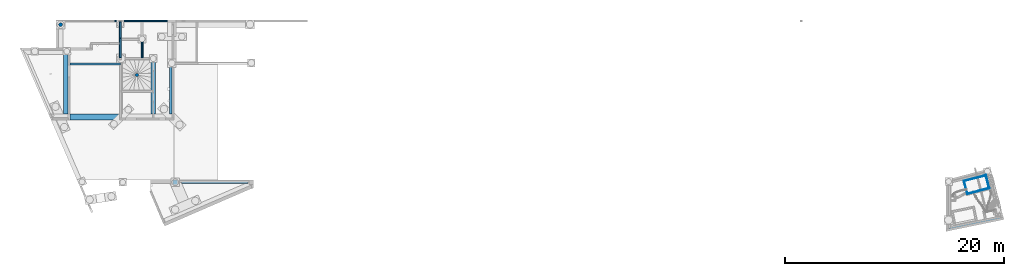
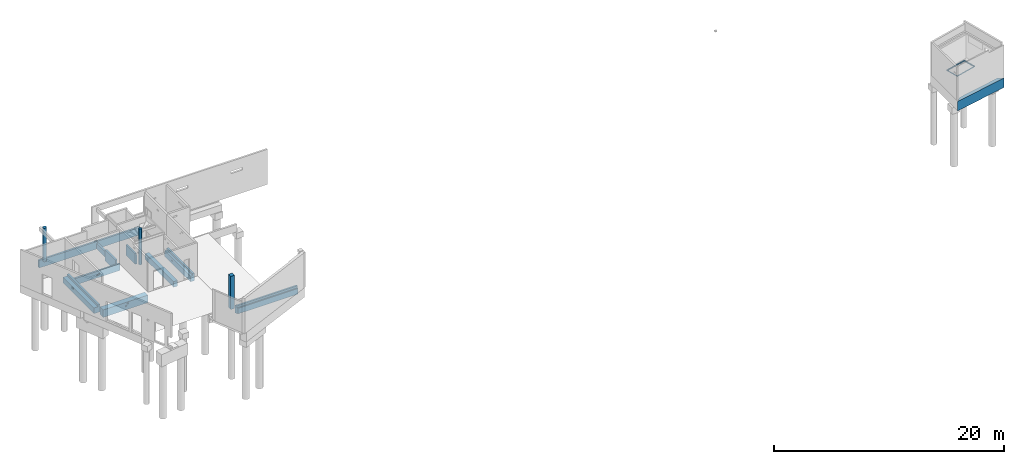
# One storey, part 1 of 29: 16 beams, 3 columns.
"""IFC2X3 building model written with IfcOpenShell, lengths in centimetres."""

from ifc_helpers import new_model, entity, si_unit, converted_unit, derived_unit, direction, frame, frame_2d, origin, origin_2d_with_axis, place, context, subcontext, project, spatial, polyline, circle_curve, parameter, trimmed, segment, composite_curve, rectangle, circle, outline, extrude, boolean, clip, halfspace, source, transform, mapped, material, material_list, type_object, type_shapes, element, save


model = new_model("IFC2X3")

# Units and contexts
model_context = context("Model", 3, precision=0.001, world=origin(), true_north=direction((6.12303176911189e-17, 1.0)))
body_context = subcontext(model_context, "Body", "Model", "MODEL_VIEW")
ifc_project = project(units=[si_unit("LENGTHUNIT", "METRE", prefix="CENTI"), si_unit("AREAUNIT", "SQUARE_METRE"), si_unit("VOLUMEUNIT", "CUBIC_METRE"), converted_unit("PLANEANGLEUNIT", "DEGREE", entity("IfcRatioMeasure", 0.0174532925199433), si_unit("PLANEANGLEUNIT", "RADIAN"), dimensions=[0, 0, 0, 0, 0, 0, 0]), si_unit("MASSUNIT", "GRAM", prefix="KILO"), derived_unit("MASSDENSITYUNIT", [(si_unit("MASSUNIT", "GRAM", prefix="KILO"), 1), (si_unit("LENGTHUNIT", "METRE"), -3)]), si_unit("TIMEUNIT", "SECOND"), si_unit("FREQUENCYUNIT", "HERTZ"), si_unit("THERMODYNAMICTEMPERATUREUNIT", "DEGREE_CELSIUS"), derived_unit("THERMALTRANSMITTANCEUNIT", [(si_unit("MASSUNIT", "GRAM", prefix="KILO"), 1), (si_unit("THERMODYNAMICTEMPERATUREUNIT", "KELVIN"), -1), (si_unit("TIMEUNIT", "SECOND"), -3)]), derived_unit("VOLUMETRICFLOWRATEUNIT", [(si_unit("LENGTHUNIT", "METRE"), 3), (si_unit("TIMEUNIT", "SECOND"), -1)]), si_unit("ELECTRICCURRENTUNIT", "AMPERE"), si_unit("ELECTRICVOLTAGEUNIT", "VOLT"), si_unit("POWERUNIT", "WATT"), si_unit("FORCEUNIT", "NEWTON"), si_unit("ILLUMINANCEUNIT", "LUX"), si_unit("LUMINOUSFLUXUNIT", "LUMEN"), si_unit("LUMINOUSINTENSITYUNIT", "CANDELA"), derived_unit("USERDEFINED", [(si_unit("MASSUNIT", "GRAM", prefix="KILO"), -1), (si_unit("LENGTHUNIT", "METRE"), -2), (si_unit("TIMEUNIT", "SECOND"), 3), (si_unit("LUMINOUSFLUXUNIT", "LUMEN"), 1)]), derived_unit("LINEARVELOCITYUNIT", [(si_unit("LENGTHUNIT", "METRE"), 1), (si_unit("TIMEUNIT", "SECOND"), -1)]), si_unit("PRESSUREUNIT", "PASCAL"), derived_unit("USERDEFINED", [(si_unit("LENGTHUNIT", "METRE"), -2), (si_unit("MASSUNIT", "GRAM", prefix="KILO"), 1), (si_unit("TIMEUNIT", "SECOND"), -2)])], contexts=[model_context])

# Site, building, storey
site_placement = place(None, origin())
site = spatial("IfcSite", under=ifc_project, at=site_placement, Name="Default", CompositionType="ELEMENT")
building_placement = place(site_placement, origin())
building = spatial("IfcBuilding", under=site, at=building_placement, Name="CAGE 03", CompositionType="ELEMENT")
storey_placement = place(building_placement, frame((0.0, 0.0, -34.0)))
storey = spatial("IfcBuildingStorey", under=building, at=storey_placement, Name="+3.66", CompositionType="ELEMENT", Elevation=-34.0000000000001)

# Columns
ifc_material_1 = material(Name="Béton, C25/30")
column_type_1 = type_object("IfcColumnType", Name="Ø35", PredefinedType="COLUMN", material=ifc_material_1)
shared_shape_1 = source(origin(), body_context, "Body", "SweptSolid", [
    extrude(circle(Radius=17.4999999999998, at=origin_2d_with_axis()), frame((3117.36582014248, 5251.16066607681, 295.0), z_axis=(0.0, 0.0, 1.0), x_axis=(-1.0, 0.0, 0.0)), (0.0, 0.0, 1.0), 22.0),
    extrude(circle(Radius=17.4999999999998, at=origin_2d_with_axis()), frame((3117.36582014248, 5251.16066607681, -39.0)), (0.0, 0.0, 1.0), 334.0),
])
type_shapes(column_type_1, [shared_shape_1])
column_1_placement = place(storey_placement, frame((0.0, 0.0, 34.0)))
element("IfcColumn", 1, at=column_1_placement, inside=storey, type_object=column_type_1, material=ifc_material_1, Name="BBGO-Poteau circ:Ø35", ObjectType="Ø35", context=body_context, shape_type="MappedRepresentation", body=[
    mapped(shared_shape_1, transform((0.0, 0.0, 0.0), scale=1.0)),
])
column_type_2 = type_object("IfcColumnType", Name="40x40", PredefinedType="COLUMN", material=ifc_material_1)
shared_shape_2 = source(origin(), body_context, "Body", "SweptSolid", [
    extrude(rectangle(XDim=40.0, YDim=39.9999999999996, at=frame_2d((2.16715534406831e-13, 0.0), x_axis=(1.0, 0.0))), frame((4164.86582014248, 3811.66066607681, 240.0), z_axis=(0.0, 0.0, 1.0), x_axis=(0.0, -1.0, 0.0)), (0.0, 0.0, 1.0), 77.0),
    extrude(rectangle(XDim=40.0, YDim=39.9999999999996, at=frame_2d((2.16715534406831e-13, 0.0), x_axis=(1.0, 0.0))), frame((4164.86582014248, 3811.66066607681, -34.0), z_axis=(0.0, 0.0, 1.0), x_axis=(0.0, -1.0, 0.0)), (0.0, 0.0, 1.0), 274.0),
])
type_shapes(column_type_2, [shared_shape_2])
column_2_placement = place(storey_placement, frame((0.0, 0.0, 34.0)))
element("IfcColumn", 2, at=column_2_placement, inside=storey, type_object=column_type_2, material=ifc_material_1, Name="BBGO-Poteau rect:40x40", ObjectType="40x40", context=body_context, shape_type="MappedRepresentation", body=[
    mapped(shared_shape_2, transform((0.0, 0.0, 0.0), scale=1.0)),
])
ifc_material_2 = material(Name="Béton, panneaux préfa 30/37")
column_type_3 = type_object("IfcColumnType", Name="Ø30", PredefinedType="COLUMN", material=ifc_material_2)
shared_shape_3 = source(origin(), body_context, "Body", "SweptSolid", [
    extrude(circle(Radius=15.0, at=origin_2d_with_axis()), frame((3813.36582014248, 4791.66066607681, 320.0), z_axis=(0.0, 0.0, 1.0), x_axis=(-1.0, 0.0, 0.0)), (0.0, 0.0, 1.0), 20.0),
    extrude(circle(Radius=15.0, at=origin_2d_with_axis()), frame((3813.36582014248, 4791.66066607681, -39.0)), (0.0, 0.0, 1.0), 359.0),
])
type_shapes(column_type_3, [shared_shape_3])
column_3_placement = place(storey_placement, frame((0.0, 0.0, 34.0)))
element("IfcColumn", 3, at=column_3_placement, inside=storey, type_object=column_type_3, material=ifc_material_2, Name="BBGO-Poteau circ:Ø30", ObjectType="Ø30", context=body_context, shape_type="MappedRepresentation", body=[
    mapped(shared_shape_3, transform((0.0, 0.0, 0.0), scale=1.0)),
])

# Beams
ifc_material_3 = material(Name="<Unnamed>")
ifc_material_list = material_list([ifc_material_1, ifc_material_3])
beam_type_1 = type_object("IfcBeamType", Name="40x80ht", PredefinedType="BEAM", material=ifc_material_list)
beam_1_placement = place(storey_placement, frame((4152.36582014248, 4431.66066607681, 0.0), z_axis=(0.0, 0.0, 1.0), x_axis=(0.0, 1.0, 0.0)))
element("IfcBeam", 4, at=beam_1_placement, inside=storey, type_object=beam_type_1, material=ifc_material_1, Name="BBGO-Poutre rect:40x80ht", ObjectType="BBGO-Poutre rect:40x80ht", context=body_context, shape_type="CSG", body=[
    boolean("DIFFERENCE", extrude(outline(polyline([(-19.3333333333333, -46.6666666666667), (20.6666666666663, -46.6666666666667), (20.6666666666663, 13.3333333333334), (-1.3333333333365, 13.3333333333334), (-1.33333333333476, 33.3333333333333), (-19.3333333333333, 33.3333333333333), (-19.3333333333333, -46.6666666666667)])), frame((5.0, 19.3333333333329, -38.3333333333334), z_axis=(1.0, 0.0, 0.0), x_axis=(0.0, 1.0, 0.0)), (0.0, 0.0, 1.0), 449.999999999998), extrude(circle(Radius=7.0, at=origin_2d_with_axis()), frame((323.932622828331, 0.0, -55.05250063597), z_axis=(0.0, 1.0, 0.0), x_axis=(1.0, 0.0, 0.0)), (0.0, 0.0, 1.0), 39.9999999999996)),
])
beam_2_placement = place(storey_placement, frame((3963.36582014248, 4431.66066607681, 0.0), z_axis=(0.0, 0.0, 1.0), x_axis=(0.0, 1.0, 0.0)))
element("IfcBeam", 5, at=beam_2_placement, inside=storey, type_object=beam_type_1, material=ifc_material_1, Name="BBGO-Poutre rect:40x80ht", ObjectType="BBGO-Poutre rect:40x80ht", context=body_context, shape_type="SweptSolid", body=[
    extrude(rectangle(XDim=60.0000000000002, YDim=39.9999999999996, at=origin_2d_with_axis()), frame((5.0, 0.0, -55.0), z_axis=(1.0, 0.0, 0.0), x_axis=(0.0, 0.0, -1.0)), (0.0, 0.0, 1.0), 496.0),
])
beam_type_2 = type_object("IfcBeamType", Name="BBGO-Poutre rect:18x80ht", PredefinedType="BEAM")
beam_3_placement = place(storey_placement, frame((3077.36582014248, 5293.66066607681, 0.0)))
element("IfcBeam", 6, at=beam_3_placement, inside=storey, type_object=beam_type_2, material=ifc_material_1, Name="BBGO-Poutre rect:18x80ht", ObjectType="BBGO-Poutre rect:18x80ht", context=body_context, shape_type="SweptSolid", body=[
    extrude(rectangle(XDim=80.0, YDim=18.0000000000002, at=frame_2d((3.5527136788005e-15, 2.16537898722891e-12), x_axis=(1.0, 0.0))), frame((0.0, -9.0, -45.0), z_axis=(1.0, 0.0, 0.0), x_axis=(0.0, 0.0, -1.0)), (0.0, 0.0, 1.0), 586.0),
])
beam_4_placement = place(storey_placement, frame((3663.36582014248, 5293.66066607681, 0.0)))
element("IfcBeam", 7, at=beam_4_placement, inside=storey, type_object=beam_type_2, material=ifc_material_1, Name="BBGO-Poutre rect:18x80ht", ObjectType="BBGO-Poutre rect:18x80ht", context=body_context, shape_type="SweptSolid", body=[
    extrude(rectangle(XDim=80.0, YDim=17.9999999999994, at=frame_2d((3.5527136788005e-15, 1.73283609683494e-12), x_axis=(1.0, 0.0))), frame((0.0, -9.0, -45.0), z_axis=(1.0, 0.0, 0.0), x_axis=(0.0, 0.0, -1.0)), (0.0, 0.0, 1.0), 428.999999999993),
])
beam_5_placement = place(storey_placement, frame((3663.36582014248, 5128.66066607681, 0.0), z_axis=(0.0, 0.0, 1.0), x_axis=(0.0, 1.0, 0.0)))
element("IfcBeam", 8, at=beam_5_placement, inside=storey, type_object=beam_type_2, material=ifc_material_1, Name="BBGO-Poutre rect:18x80ht", ObjectType="BBGO-Poutre rect:18x80ht", context=body_context, shape_type="SweptSolid", body=[
    extrude(rectangle(XDim=60.0000000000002, YDim=18.0000000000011, at=frame_2d((0.0, -2.16715534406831e-13), x_axis=(1.0, 0.0))), frame((0.0, 0.0, -55.0), z_axis=(1.0, 0.0, 0.0), x_axis=(0.0, 0.0, -1.0)), (0.0, 0.0, 1.0), 147.0),
])
beam_type_3 = type_object("IfcBeamType", Name="BBGO-Poutre rect:60x80ht", PredefinedType="BEAM")
beam_6_placement = place(storey_placement, frame((3204.36582014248, 4431.66066607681, 0.0), z_axis=(0.0, 0.0, 1.0), x_axis=(0.0, 1.0, 0.0)))
element("IfcBeam", 9, at=beam_6_placement, inside=storey, type_object=beam_type_3, material=ifc_material_1, Name="BBGO-Poutre rect:60x80ht", ObjectType="BBGO-Poutre rect:60x80ht", context=body_context, shape_type="CSG", body=[
    boolean("DIFFERENCE", extrude(outline(polyline([(-26.0, -46.6666666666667), (34.0, -46.6666666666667), (34.0, 13.3333333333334), (-8.0, 13.3333333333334), (-8.0, 33.3333333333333), (-26.0, 33.3333333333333), (-26.0, -46.6666666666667)])), frame((5.0, 26.0, -38.3333333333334), z_axis=(1.0, 0.0, 0.0), x_axis=(0.0, 1.0, 0.0)), (0.0, 0.0, 1.0), 540.499999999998), extrude(circle(Radius=8.0, at=origin_2d_with_axis()), frame((369.644843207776, 60.0, -37.3211962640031), z_axis=(0.0, -1.0, 0.0), x_axis=(1.0, 0.0, 0.0)), (0.0, 0.0, 1.0), 60.0000000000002)),
])
beam_type_4 = type_object("IfcBeamType", Name="BBGO-Poutre rect:55x80ht", PredefinedType="BEAM")
beam_7_placement = place(storey_placement, frame((3204.36582014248, 4381.66066607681, 0.0)))
element("IfcBeam", 10, at=beam_7_placement, inside=storey, type_object=beam_type_4, material=ifc_material_1, Name="BBGO-Poutre rect:55x80ht", ObjectType="BBGO-Poutre rect:55x80ht", context=body_context, shape_type="CSG", body=[
    boolean("DIFFERENCE", boolean("DIFFERENCE", extrude(rectangle(XDim=80.0, YDim=54.9999999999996, at=frame_2d((1.73372427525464e-12, 1.4210854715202e-14), x_axis=(0.0, 1.0))), frame((0.0, 27.4999999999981, -72.0), z_axis=(1.0, 0.0, 0.0), x_axis=(0.0, 1.0, 0.0)), (0.0, 0.0, 1.0), 450.0), extrude(circle(Radius=8.0, at=frame_2d((0.0, 2.70716782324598e-14), x_axis=(1.0, 0.0))), frame((248.547439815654, 55.0, -49.0488527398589), z_axis=(0.0, -1.0, 0.0), x_axis=(1.0, 0.0, 0.0)), (0.0, 0.0, 1.0), 54.9999999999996)), extrude(circle(Radius=8.0, at=frame_2d((0.0, 1.35358391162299e-14), x_axis=(1.0, 0.0))), frame((229.88641393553, 0.0, -70.6702030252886), z_axis=(0.0, 1.0, 0.0), x_axis=(1.0, 0.0, 0.0)), (0.0, 0.0, 1.0), 54.9999999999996)),
])
beam_type_5 = type_object("IfcBeamType", Name="BBGO-Poutre rect:18x70ht", PredefinedType="BEAM")
beam_8_placement = place(storey_placement, frame((3204.36582014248, 4881.66066607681, 0.0)))
element("IfcBeam", 11, at=beam_8_placement, inside=storey, type_object=beam_type_5, material=ifc_material_1, Name="BBGO-Poutre rect:18x70ht", ObjectType="BBGO-Poutre rect:18x70ht", context=body_context, shape_type="CSG", body=[
    boolean("DIFFERENCE", boolean("DIFFERENCE", extrude(rectangle(XDim=70.0, YDim=18.0000000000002, at=frame_2d((1.73283609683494e-12, 0.0), x_axis=(0.0, 1.0))), frame((0.0, 9.0, -40.0), z_axis=(1.0, 0.0, 0.0), x_axis=(0.0, 1.0, 0.0)), (0.0, 0.0, 1.0), 459.0), extrude(circle(Radius=7.0, at=frame_2d((0.0, -2.70716782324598e-14), x_axis=(1.0, 0.0))), frame((229.692758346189, 0.0, -46.9169631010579), z_axis=(0.0, 1.0, 0.0), x_axis=(1.0, 0.0, 0.0)), (0.0, 0.0, 1.0), 17.9999999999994)), extrude(circle(Radius=7.0, at=frame_2d((0.0, 2.70716782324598e-14), x_axis=(1.0, 0.0))), frame((248.547439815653, 18.0, -39.1800399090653), z_axis=(0.0, -1.0, 0.0), x_axis=(1.0, 0.0, 0.0)), (0.0, 0.0, 1.0), 17.9999999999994)),
])
beam_type_6 = type_object("IfcBeamType", Name="BBGO-Poutre rect:30x80ht", PredefinedType="BEAM")
beam_9_placement = place(storey_placement, frame((4204.86582014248, 3831.66066607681, 0.0)))
element("IfcBeam", 12, at=beam_9_placement, inside=storey, type_object=beam_type_6, material=ifc_material_1, Name="BBGO-Poutre rect:30x80ht", ObjectType="BBGO-Poutre rect:30x80ht", context=body_context, shape_type="Clipping", body=[
    clip(extrude(outline(polyline([(-13.333333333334, -14.0), (46.6666666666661, -14.0), (46.6666666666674, 16.0), (-33.3333333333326, 16.0), (-33.3333333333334, -2.0), (-13.3333333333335, -2.0), (-13.333333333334, -14.0)])), frame((5.82602813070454, -16.0, -33.3333333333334), z_axis=(1.0, 0.0, 0.0), x_axis=(0.0, 0.0, -1.0)), (0.0, 0.0, 1.0), 618.501747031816), halfspace(frame((-2.76506193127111, 19.8553110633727, 0.0), z_axis=(-0.917772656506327, -0.397106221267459, 0.0), x_axis=(0.397106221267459, -0.917772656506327, 0.0)), False)),
])
beam_type_7 = type_object("IfcBeamType", Name="BBGO-Poutre rect:18x113ht", PredefinedType="BEAM")
beam_10_placement = place(storey_placement, frame((3861.36582014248, 4941.66066607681, 0.0), z_axis=(0.0, 0.0, 1.0), x_axis=(0.0, 1.0, 0.0)))
element("IfcBeam", 13, at=beam_10_placement, inside=storey, type_object=beam_type_7, material=ifc_material_1, Name="BBGO-Poutre rect:18x113ht", ObjectType="BBGO-Poutre rect:18x113ht", context=body_context, shape_type="SweptSolid", body=[
    extrude(outline(polyline([(-25.6666666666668, -7.0), (69.3333333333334, -7.0), (69.3333333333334, 11.0), (-43.6666666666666, 11.0), (-43.6666666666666, -4.0), (-25.6666666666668, -4.0), (-25.6666666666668, -7.0)])), frame((9.0, -2.0, -50.6666666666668), z_axis=(1.0, 0.0, 0.0), x_axis=(0.0, 0.0, -1.0)), (0.0, 0.0, 1.0), 160.000000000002),
])
beam_type_8 = type_object("IfcBeamType", Name="BBGO-Poutre rect:18x115ht", PredefinedType="BEAM")
beam_11_placement = place(storey_placement, frame((3663.36582014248, 4941.66066607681, 0.0), z_axis=(0.0, 0.0, 1.0), x_axis=(0.0, 1.0, 0.0)))
element("IfcBeam", 14, at=beam_11_placement, inside=storey, type_object=beam_type_8, material=ifc_material_1, Name="BBGO-Poutre rect:18x115ht", ObjectType="BBGO-Poutre rect:18x115ht", context=body_context, shape_type="SweptSolid", body=[
    extrude(rectangle(XDim=115.0, YDim=18.0000000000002, at=frame_2d((0.0, -4.33431068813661e-13), x_axis=(1.0, 0.0))), frame((9.0, 0.0, -62.5000000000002), z_axis=(1.0, 0.0, 0.0), x_axis=(0.0, 0.0, -1.0)), (0.0, 0.0, 1.0), 178.0),
])
beam_type_9 = type_object("IfcBeamType", Name="BBGO-Poutre rect:36x101ht", PredefinedType="BEAM")
beam_12_placement = place(storey_placement, frame((11729.6069475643, 3471.80158792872, 0.0), z_axis=(0.0, 0.0, 1.0), x_axis=(-0.979414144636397, -0.201861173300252, 0.0)))
element("IfcBeam", 15, at=beam_12_placement, inside=storey, type_object=beam_type_9, material=ifc_material_1, Name="BBGO-Poutre rect:36x101ht", ObjectType="BBGO-Poutre rect:36x101ht", context=body_context, shape_type="Clipping", body=[
    clip(clip(extrude(outline(polyline([(-60.6666666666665, -17.3333333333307), (20.3333333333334, -17.3333333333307), (20.3333333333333, -1.33333333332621), (40.3333333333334, -1.33333333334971), (40.3333333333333, 18.66666666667), (-60.6666666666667, 18.6666666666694), (-60.6666666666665, -17.3333333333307)])), frame((0.0, -18.6666666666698, -60.6666666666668), z_axis=(1.0, 0.0, 0.0), x_axis=(0.0, 0.0, -1.0)), (0.0, 0.0, 1.0), 539.34398468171), halfspace(frame((485.978406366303, -36.0, 0.0), z_axis=(0.559240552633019, -0.829005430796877, 0.0), x_axis=(-0.829005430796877, -0.559240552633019, 0.0)), False)), halfspace(frame((46.9419403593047, -36.0, 0.0), z_axis=(-0.608550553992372, -0.79351510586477, 0.0), x_axis=(-0.79351510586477, 0.608550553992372, 0.0)), False)),
])
ifc_material_4 = material(Name="Acier structurel - S235")
beam_type_10 = type_object("IfcBeamType", Name="Cornière à ailes inégales:L80x60x7", PredefinedType="BEAM")
beam_13_placement = place(storey_placement, frame((11395.1407274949, 3701.8667203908, 0.0), z_axis=(0.0, 0.0, 1.0), x_axis=(-0.252679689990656, 0.967549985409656, 0.0)))
element("IfcBeam", 16, at=beam_13_placement, inside=storey, type_object=beam_type_10, material=ifc_material_4, Name="Cornière à ailes inégales:L80x60x7", ObjectType="Cornière à ailes inégales:L80x60x7", context=body_context, shape_type="SweptSolid", body=[
    extrude(outline(composite_curve([segment(polyline([(2.67777777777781, -3.68888888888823), (2.97777777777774, -3.68888888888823)]), True, "CONTINUOUS"), segment(polyline([(2.97777777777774, -3.68888888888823), (2.97777777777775, 2.31111111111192)]), True, "CONTINUOUS"), segment(polyline([(2.97777777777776, 2.31111111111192), (-5.02222222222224, 2.31111111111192)]), True, "CONTINUOUS"), segment(polyline([(-5.02222222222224, 2.31111111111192), (-5.02222222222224, 2.01111111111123)]), True, "CONTINUOUS"), segment(trimmed(circle_curve(frame_2d((-4.62222222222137, 2.01111111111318), x_axis=(-1.0, 0.0)), 0.400000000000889), [parameter(0.0)], [parameter(89.9999999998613)], True, "PARAMETER"), True, "CONTINUOUS"), segment(polyline([(-4.62222222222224, 1.61111111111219), (1.47777777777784, 1.61111111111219)]), True, "CONTINUOUS"), segment(trimmed(circle_curve(frame_2d((1.47777777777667, 0.811111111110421), x_axis=(0.0, 1.0)), 0.800000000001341), [parameter(270.000000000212)], [parameter(0.0)], True, "PARAMETER"), False, "CONTINUOUS"), segment(polyline([(2.27777777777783, 0.811111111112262), (2.27777777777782, -3.2888888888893)]), True, "CONTINUOUS"), segment(trimmed(circle_curve(frame_2d((2.67777777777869, -3.28888888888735), x_axis=(-1.0, 0.0)), 0.400000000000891), [parameter(0.0)], [parameter(89.9999999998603)], True, "PARAMETER"), True, "CONTINUOUS")], self_intersect=False)), frame((1.49999999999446, -0.791111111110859, -5.02222222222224), z_axis=(1.0, 0.0, 0.0), x_axis=(0.0, 0.0, -1.0)), (0.0, 0.0, 1.0), 126.999999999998),
])
beam_14_placement = place(storey_placement, frame((11597.3199724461, 3754.66666841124, 0.0), z_axis=(0.0, 0.0, 1.0), x_axis=(-0.252679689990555, 0.967549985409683, 0.0)))
element("IfcBeam", 17, at=beam_14_placement, inside=storey, type_object=beam_type_10, material=ifc_material_4, Name="Cornière à ailes inégales:L80x60x7", ObjectType="Cornière à ailes inégales:L80x60x7", context=body_context, shape_type="SweptSolid", body=[
    extrude(outline(composite_curve([segment(polyline([(-5.02222222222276, -2.31111111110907), (2.97777777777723, -2.31111111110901)]), True, "CONTINUOUS"), segment(polyline([(2.97777777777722, -2.31111111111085), (2.97777777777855, 3.68888888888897)]), True, "CONTINUOUS"), segment(polyline([(2.97777777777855, 3.68888888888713), (2.67777777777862, 3.68888888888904)]), True, "CONTINUOUS"), segment(trimmed(circle_curve(frame_2d((2.67777777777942, 3.28888888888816), x_axis=(0.0, 1.0)), 0.400000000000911), [parameter(0.0)], [parameter(89.9999999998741)], True, "PARAMETER"), True, "CONTINUOUS"), segment(polyline([(2.27777777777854, 3.28888888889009), (2.27777777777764, -0.811111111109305)]), True, "CONTINUOUS"), segment(trimmed(circle_curve(frame_2d((1.47777777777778, -0.811111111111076), x_axis=(1.0, 0.0)), 0.799999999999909), [parameter(269.999999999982)], [parameter(0.0)], True, "PARAMETER"), False, "CONTINUOUS"), segment(polyline([(1.47777777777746, -1.61111111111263), (-4.62222222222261, -1.61111111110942)]), True, "CONTINUOUS"), segment(trimmed(circle_curve(frame_2d((-4.62222222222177, -2.01111111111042), x_axis=(0.0, 1.0)), 0.400000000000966), [parameter(0.0)], [parameter(89.9999999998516)], True, "PARAMETER"), True, "CONTINUOUS"), segment(polyline([(-5.0222222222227, -2.01111111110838), (-5.02222222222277, -2.31111111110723)]), True, "CONTINUOUS")], self_intersect=False)), frame((1.49999999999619, 0.791111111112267, -5.02222222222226), z_axis=(1.0, 0.0, 0.0), x_axis=(0.0, 0.0, -1.0)), (0.0, 0.0, 1.0), 126.999999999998),
])
beam_15_placement = place(storey_placement, frame((11391.4556338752, 3704.02562868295, 0.0), z_axis=(0.0, 0.0, 1.0), x_axis=(0.967549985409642, 0.252679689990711, 0.0)))
element("IfcBeam", 18, at=beam_15_placement, inside=storey, type_object=beam_type_10, material=ifc_material_4, Name="Cornière à ailes inégales:L80x60x7", ObjectType="Cornière à ailes inégales:L80x60x7", context=body_context, shape_type="SweptSolid", body=[
    extrude(outline(composite_curve([segment(polyline([(-5.02222222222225, -2.3111111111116), (2.97777777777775, -2.3111111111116)]), True, "CONTINUOUS"), segment(polyline([(2.97777777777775, -2.3111111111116), (2.97777777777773, 3.68888888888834)]), True, "CONTINUOUS"), segment(polyline([(2.97777777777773, 3.68888888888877), (2.67777777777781, 3.68888888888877)]), True, "CONTINUOUS"), segment(trimmed(circle_curve(frame_2d((2.67777777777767, 3.28888888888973), x_axis=(0.0, 1.0)), 0.399999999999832), [parameter(0.0)], [parameter(90.0000000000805)], True, "PARAMETER"), True, "CONTINUOUS"), segment(polyline([(2.27777777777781, 3.2888888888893), (2.27777777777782, -0.811111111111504)]), True, "CONTINUOUS"), segment(trimmed(circle_curve(frame_2d((1.47777777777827, -0.811111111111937), x_axis=(1.0, 0.0)), 0.799999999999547), [parameter(269.999999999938)], [parameter(0.0)], True, "PARAMETER"), False, "CONTINUOUS"), segment(polyline([(1.47777777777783, -1.61111111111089), (-4.62222222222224, -1.61111111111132)]), True, "CONTINUOUS"), segment(trimmed(circle_curve(frame_2d((-4.62222222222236, -2.0111111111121), x_axis=(0.0, 1.0)), 0.399999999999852), [parameter(0.0)], [parameter(90.0000000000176)], True, "PARAMETER"), True, "CONTINUOUS"), segment(polyline([(-5.02222222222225, -2.0111111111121), (-5.02222222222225, -2.3111111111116)]), True, "CONTINUOUS")], self_intersect=False)), frame((7.49999999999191, 0.791111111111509, -5.02222222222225), z_axis=(1.0, 0.0, 0.0), x_axis=(0.0, 0.0, -1.0)), (0.0, 0.0, 1.0), 200.000000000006),
])
beam_16_placement = place(storey_placement, frame((11360.1334595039, 3823.96312487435, 0.0), z_axis=(0.0, 0.0, 1.0), x_axis=(0.967549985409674, 0.25267968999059, 0.0)))
element("IfcBeam", 19, at=beam_16_placement, inside=storey, type_object=beam_type_10, material=ifc_material_4, Name="Cornière à ailes inégales:L80x60x7", ObjectType="Cornière à ailes inégales:L80x60x7", context=body_context, shape_type="SweptSolid", body=[
    extrude(outline(composite_curve([segment(polyline([(2.67777777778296, -3.68888888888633), (2.97777777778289, -3.68888888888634)]), True, "CONTINUOUS"), segment(polyline([(2.97777777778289, -3.68888888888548), (2.97777777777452, 2.31111111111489)]), True, "CONTINUOUS"), segment(polyline([(2.97777777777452, 2.31111111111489), (-5.02222222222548, 2.31111111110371)]), True, "CONTINUOUS"), segment(polyline([(-5.02222222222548, 2.31111111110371), (-5.02222222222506, 2.01111111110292)]), True, "CONTINUOUS"), segment(trimmed(circle_curve(frame_2d((-4.62222222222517, 2.01111111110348), x_axis=(-1.0, 0.0)), 0.399999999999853), [parameter(0.0)], [parameter(90.0000000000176)], True, "PARAMETER"), True, "CONTINUOUS"), segment(polyline([(-4.6222222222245, 1.611111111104), (1.47777777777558, 1.61111111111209)]), True, "CONTINUOUS"), segment(trimmed(circle_curve(frame_2d((1.47777777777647, 0.811111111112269), x_axis=(0.0, 1.0)), 0.80000000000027), [parameter(270.000000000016)], [parameter(0.0)], True, "PARAMETER"), False, "CONTINUOUS"), segment(polyline([(2.27777777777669, 0.811111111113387), (2.27777777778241, -3.28888888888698)]), True, "CONTINUOUS"), segment(trimmed(circle_curve(frame_2d((2.67777777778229, -3.28888888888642), x_axis=(-1.0, 0.0)), 0.399999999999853), [parameter(0.0)], [parameter(90.0000000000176)], True, "PARAMETER"), True, "CONTINUOUS")], self_intersect=False)), frame((7.49999999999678, -0.791111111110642, -5.02222222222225), z_axis=(1.0, 0.0, 0.0), x_axis=(0.0, 0.0, -1.0)), (0.0, 0.0, 1.0), 200.000000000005),
])

save(model, "model.ifc")
